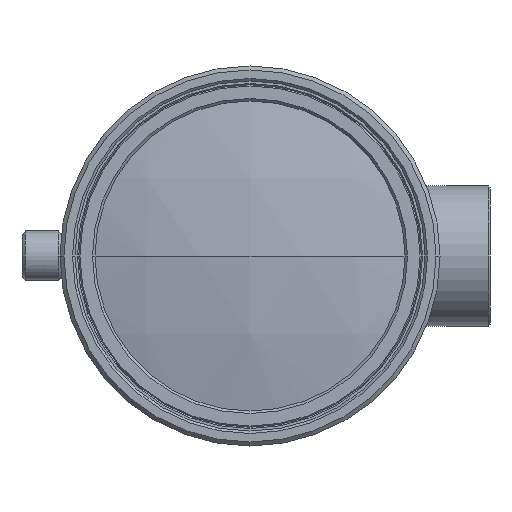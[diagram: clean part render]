
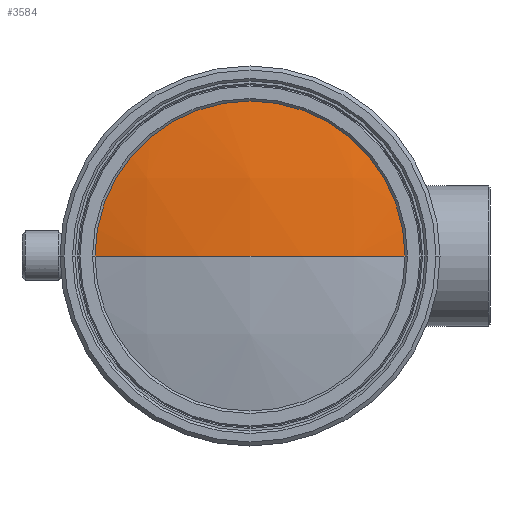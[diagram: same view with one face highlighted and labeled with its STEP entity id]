
A CAD part, left-side view. The second image highlights one B-rep face of the part: STEP entity #3584.
In plain terms, the highlighted spherical face has radius 66.5 mm.
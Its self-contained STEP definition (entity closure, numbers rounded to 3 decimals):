
#65 = DIRECTION ( 'NONE',  ( 0., -1., 0. ) ) ;
#127 = CIRCLE ( 'NONE', #199, 15.5 ) ;
#199 = AXIS2_PLACEMENT_3D ( 'NONE', #3097, #1809, #3808 ) ;
#400 = DIRECTION ( 'NONE',  ( 0., 0., -1. ) ) ;
#758 = CARTESIAN_POINT ( 'NONE',  ( 2.132, -9.786, 178.355 ) ) ;
#832 = CARTESIAN_POINT ( 'NONE',  ( -64.368, -9.786, 178.355 ) ) ;
#933 = ORIENTED_EDGE ( 'NONE', *, *, #2891, .T. ) ;
#975 = SPHERICAL_SURFACE ( 'NONE', #1646, 66.5 ) ;
#1106 = CIRCLE ( 'NONE', #1708, 66.5 ) ;
#1433 = ORIENTED_EDGE ( 'NONE', *, *, #3156, .F. ) ;
#1440 = DIRECTION ( 'NONE',  ( 0., -1., 0. ) ) ;
#1593 = ORIENTED_EDGE ( 'NONE', *, *, #1993, .T. ) ;
#1646 = AXIS2_PLACEMENT_3D ( 'NONE', #1664, #2971, #65 ) ;
#1664 = CARTESIAN_POINT ( 'NONE',  ( 2.132, -9.786, 178.355 ) ) ;
#1708 = AXIS2_PLACEMENT_3D ( 'NONE', #2392, #4143, #1440 ) ;
#1809 = DIRECTION ( 'NONE',  ( -1., 0., 0. ) ) ;
#1917 = EDGE_LOOP ( 'NONE', ( #1593, #933, #1433 ) ) ;
#1985 = FACE_OUTER_BOUND ( 'NONE', #1917, .T. ) ;
#1993 = EDGE_CURVE ( 'NONE', #2458, #3658, #127, .T. ) ;
#2382 = DIRECTION ( 'NONE',  ( 0., 1., 0. ) ) ;
#2392 = CARTESIAN_POINT ( 'NONE',  ( 2.132, -9.786, 178.355 ) ) ;
#2458 = VERTEX_POINT ( 'NONE', #4130 ) ;
#2661 = AXIS2_PLACEMENT_3D ( 'NONE', #758, #400, #2382 ) ;
#2891 = EDGE_CURVE ( 'NONE', #3658, #4065, #1106, .T. ) ;
#2971 = DIRECTION ( 'NONE',  ( 0., 0., 1. ) ) ;
#3097 = CARTESIAN_POINT ( 'NONE',  ( -62.536, -9.786, 178.355 ) ) ;
#3123 = CARTESIAN_POINT ( 'NONE',  ( -62.536, 5.714, 178.355 ) ) ;
#3156 = EDGE_CURVE ( 'NONE', #2458, #4065, #4162, .T. ) ;
#3584 = ADVANCED_FACE ( 'NONE', ( #1985 ), #975, .T. ) ;
#3658 = VERTEX_POINT ( 'NONE', #3123 ) ;
#3808 = DIRECTION ( 'NONE',  ( 0., 1., 0. ) ) ;
#4065 = VERTEX_POINT ( 'NONE', #832 ) ;
#4130 = CARTESIAN_POINT ( 'NONE',  ( -62.536, -25.286, 178.355 ) ) ;
#4143 = DIRECTION ( 'NONE',  ( 0., 0., 1. ) ) ;
#4162 = CIRCLE ( 'NONE', #2661, 66.5 ) ;
